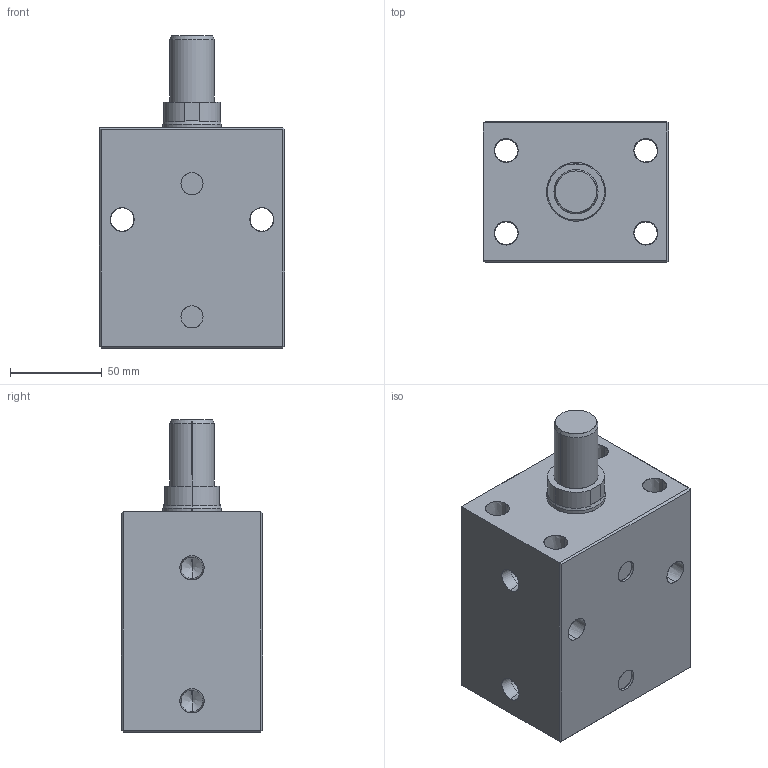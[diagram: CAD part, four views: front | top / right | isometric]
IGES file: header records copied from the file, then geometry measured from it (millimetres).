
Start section: SolidWorks IGES file using analytic representation for surfaces
Global section: file name: E:\ALL-SSVT-BLOCK\50BORE-IGS-MODEL\BC04-50-50M.IGS; native system: SolidWorks 2019; preprocessor: SolidWorks 2019; author: SSVT; date: 210825.154258; units: millimetre
Bounding box: 101 x 77 x 170 mm (x, y, z)
Surface area: 102370.1 mm2 (no closed solid volume)
Topology: 0 solids, 0 shells, 90 faces, 1751 edges, 1747 vertices
Faces by surface type: revolution 57, bspline 33
